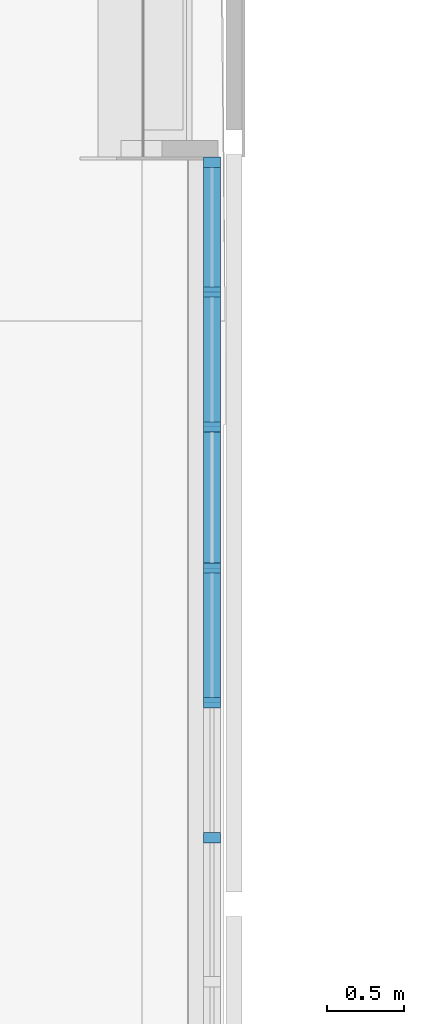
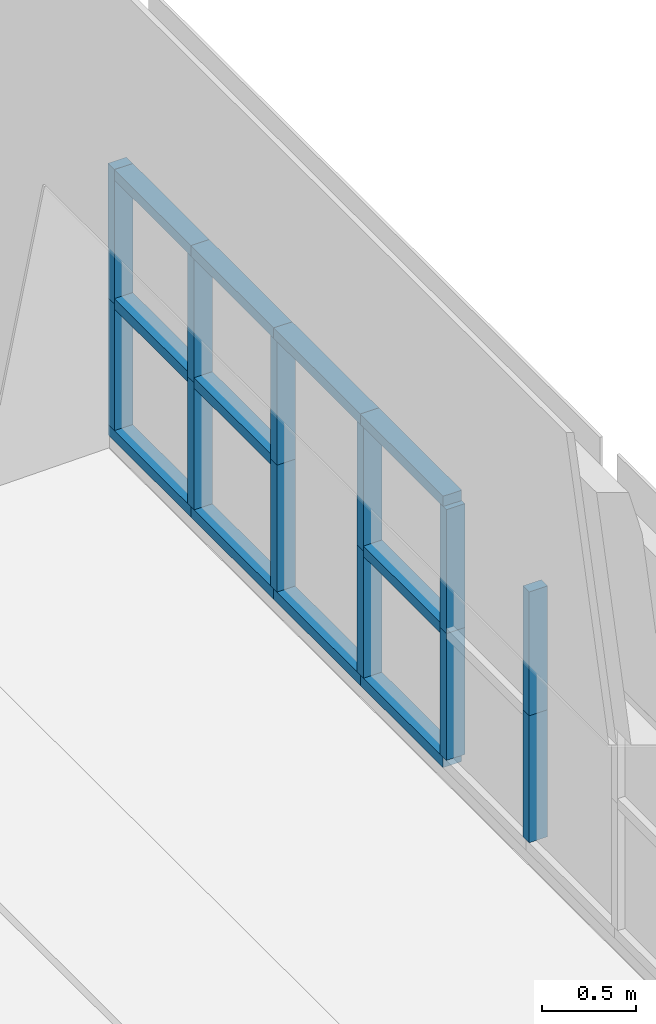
# One storey, part 8 of 66: 23 members, 1 element without a shape of its own.
"""IFC2X3 building model written with IfcOpenShell, lengths in millimetres."""

from ifc_helpers import new_model, entity, si_unit, converted_unit, derived_unit, direction, frame, origin, origin_2d_with_axis, place, context, subcontext, project, spatial, rectangle, extrude, source, transform, mapped, material, type_object, type_shapes, element, aggregate, save


model = new_model("IFC2X3")

# Units and contexts
model_context = context("Model", 3, precision=0.01, world=origin(), true_north=direction((6.12303176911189e-17, 1.0)))
body_context = subcontext(model_context, "Body", "Model", "MODEL_VIEW")
ifc_project = project(units=[si_unit("LENGTHUNIT", "METRE", prefix="MILLI"), si_unit("AREAUNIT", "SQUARE_METRE"), si_unit("VOLUMEUNIT", "CUBIC_METRE"), converted_unit("PLANEANGLEUNIT", "DEGREE", entity("IfcRatioMeasure", 0.0174532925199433), si_unit("PLANEANGLEUNIT", "RADIAN"), dimensions=[0, 0, 0, 0, 0, 0, 0]), si_unit("MASSUNIT", "GRAM", prefix="KILO"), derived_unit("MASSDENSITYUNIT", [(si_unit("MASSUNIT", "GRAM", prefix="KILO"), 1), (si_unit("LENGTHUNIT", "METRE"), -3)]), derived_unit("MOMENTOFINERTIAUNIT", [(si_unit("LENGTHUNIT", "METRE"), 4)]), si_unit("TIMEUNIT", "SECOND"), si_unit("FREQUENCYUNIT", "HERTZ"), si_unit("THERMODYNAMICTEMPERATUREUNIT", "DEGREE_CELSIUS"), derived_unit("THERMALTRANSMITTANCEUNIT", [(si_unit("MASSUNIT", "GRAM", prefix="KILO"), 1), (si_unit("THERMODYNAMICTEMPERATUREUNIT", "KELVIN"), -1), (si_unit("TIMEUNIT", "SECOND"), -3)]), derived_unit("VOLUMETRICFLOWRATEUNIT", [(si_unit("LENGTHUNIT", "METRE"), 3), (si_unit("TIMEUNIT", "SECOND"), -1)]), si_unit("ELECTRICCURRENTUNIT", "AMPERE"), si_unit("ELECTRICVOLTAGEUNIT", "VOLT"), si_unit("POWERUNIT", "WATT"), si_unit("FORCEUNIT", "NEWTON", prefix="KILO"), si_unit("ILLUMINANCEUNIT", "LUX"), si_unit("LUMINOUSFLUXUNIT", "LUMEN"), si_unit("LUMINOUSINTENSITYUNIT", "CANDELA"), derived_unit("USERDEFINED", [(si_unit("MASSUNIT", "GRAM", prefix="KILO"), -1), (si_unit("LENGTHUNIT", "METRE"), -2), (si_unit("TIMEUNIT", "SECOND"), 3), (si_unit("LUMINOUSFLUXUNIT", "LUMEN"), 1)]), derived_unit("LINEARVELOCITYUNIT", [(si_unit("LENGTHUNIT", "METRE"), 1), (si_unit("TIMEUNIT", "SECOND"), -1)]), si_unit("PRESSUREUNIT", "PASCAL"), derived_unit("USERDEFINED", [(si_unit("LENGTHUNIT", "METRE"), -2), (si_unit("MASSUNIT", "GRAM", prefix="KILO"), 1), (si_unit("TIMEUNIT", "SECOND"), -2)]), derived_unit("LINEARFORCEUNIT", [(si_unit("MASSUNIT", "GRAM", prefix="KILO"), 1), (si_unit("LENGTHUNIT", "METRE"), 1), (si_unit("TIMEUNIT", "SECOND"), -2), (si_unit("LENGTHUNIT", "METRE"), -1)]), derived_unit("PLANARFORCEUNIT", [(si_unit("MASSUNIT", "GRAM", prefix="KILO"), 1), (si_unit("LENGTHUNIT", "METRE"), 1), (si_unit("TIMEUNIT", "SECOND"), -2), (si_unit("LENGTHUNIT", "METRE"), -2)])], contexts=[model_context])

# Site, building, storey
site_placement = place(None, origin())
site = spatial("IfcSite", under=ifc_project, at=site_placement, Name="Default", CompositionType="ELEMENT")
building_placement = place(site_placement, origin())
building = spatial("IfcBuilding", under=site, at=building_placement, Name="-", CompositionType="ELEMENT")
storey_placement = place(building_placement, frame((0.0, 0.0, 3070.0)))
storey = spatial("IfcBuildingStorey", under=building, at=storey_placement, Name="01 eerste verdieping", CompositionType="ELEMENT", Elevation=3070.00000000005)

# Curtain wall, members
curtain_wall_type = type_object("IfcCurtainWallType", Name="Curtain Wall:NLRS_31_WIN_UN_houten kozijn vrij indeelbaar_gen_aly", PredefinedType="NOTDEFINED")
curtain_wall_placement = place(storey_placement, frame((0.0, 0.0, -3070.0)))
curtain_wall = element("IfcCurtainWall", 1, at=curtain_wall_placement, inside=storey, type_object=curtain_wall_type, Name="Curtain Wall:NLRS_31_WIN_UN_houten kozijn vrij indeelbaar_gen_aly", ObjectType="Curtain Wall:NLRS_31_WIN_UN_houten kozijn vrij indeelbaar_gen_aly")
ifc_material = material(Name="NLRS_i3_hout_Loofhout (hardhout) RAL 9005")
member_type_1 = type_object("IfcMemberType", Name="Rectangular Mullion:67x114 zwart", PredefinedType="MULLION", material=ifc_material)
shared_shape_1 = source(origin(), body_context, "Body", "SweptSolid", [
    extrude(rectangle(XDim=114.0, YDim=67.0, at=origin_2d_with_axis()), frame((-33.5, 0.0, -813.0), z_axis=(0.0, 0.0, 1.0), x_axis=(0.0, -1.0, 0.0)), (0.0, 0.0, 1.0), 812.999999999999),
])
type_shapes(member_type_1, [shared_shape_1])
member_1_placement = place(storey_placement, frame((28618.0, 36222.055345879, 2105.30371120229), z_axis=(0.0, 1.0, 0.0), x_axis=(0.0, 0.0, 1.0)))
member_1 = element("IfcMember", 2, at=member_1_placement, type_object=member_type_1, material=ifc_material, Name="Rectangular Mullion:67x114 zwart", ObjectType="Rectangular Mullion:67x114 zwart", context=body_context, shape_type="MappedRepresentation", body=[
    mapped(shared_shape_1, transform((0.0, 0.0, 0.0), scale=1.0)),
])
member_type_2 = type_object("IfcMemberType", Name="Rectangular Mullion:67x114 zwart", PredefinedType="MULLION", material=ifc_material)
shared_shape_2 = source(origin(), body_context, "Body", "SweptSolid", [
    extrude(rectangle(XDim=114.0, YDim=67.0, at=origin_2d_with_axis()), frame((-33.5, 0.0, -822.972353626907), z_axis=(0.0, 0.0, 1.0), x_axis=(0.0, -1.0, 0.0)), (0.0, 0.0, 1.0), 822.972353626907),
])
type_shapes(member_type_2, [shared_shape_2])
member_2_placement = place(storey_placement, frame((28618.0, 36289.055345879, 412.359003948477), z_axis=(0.0, 0.0, -1.0), x_axis=(0.0, 1.0, 0.0)))
member_2 = element("IfcMember", 3, at=member_2_placement, type_object=member_type_2, material=ifc_material, Name="Rectangular Mullion:67x114 zwart", ObjectType="Rectangular Mullion:67x114 zwart", context=body_context, shape_type="MappedRepresentation", body=[
    mapped(shared_shape_2, transform((0.0, 0.0, 0.0), scale=1.0)),
])
member_type_3 = type_object("IfcMemberType", Name="Rectangular Mullion:67x114 zwart", PredefinedType="MULLION", material=ifc_material)
shared_shape_3 = source(origin(), body_context, "Body", "SweptSolid", [
    extrude(rectangle(XDim=114.0, YDim=67.0, at=origin_2d_with_axis()), frame((-33.5, 0.0, -869.972353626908), z_axis=(0.0, 0.0, 1.0), x_axis=(0.0, -1.0, 0.0)), (0.0, 0.0, 1.0), 869.972353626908),
])
type_shapes(member_type_3, [shared_shape_3])
member_3_placement = place(storey_placement, frame((28618.0, 36289.055345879, 1235.33135757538), z_axis=(0.0, 0.0, -1.0), x_axis=(0.0, 1.0, 0.0)))
member_3 = element("IfcMember", 4, at=member_3_placement, type_object=member_type_3, material=ifc_material, Name="Rectangular Mullion:67x114 zwart", ObjectType="Rectangular Mullion:67x114 zwart", context=body_context, shape_type="MappedRepresentation", body=[
    mapped(shared_shape_3, transform((0.0, 0.0, 0.0), scale=1.0)),
])
member_type_4 = type_object("IfcMemberType", Name="Rectangular Mullion:67x114 zwart", PredefinedType="MULLION", material=ifc_material)
shared_shape_4 = source(origin(), body_context, "Body", "SweptSolid", [
    extrude(rectangle(XDim=114.0, YDim=67.0, at=origin_2d_with_axis()), frame((-33.5, 0.0, -880.0), z_axis=(0.0, 0.0, 1.0), x_axis=(0.0, -1.0, 0.0)), (0.0, 0.0, 1.0), 879.999999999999),
])
type_shapes(member_type_4, [shared_shape_4])
member_4_placement = place(storey_placement, frame((28618.0, 35409.055345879, 2105.30371120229), z_axis=(0.0, 1.0, 0.0), x_axis=(0.0, 0.0, 1.0)))
member_4 = element("IfcMember", 5, at=member_4_placement, type_object=member_type_4, material=ifc_material, Name="Rectangular Mullion:67x114 zwart", ObjectType="Rectangular Mullion:67x114 zwart", context=body_context, shape_type="MappedRepresentation", body=[
    mapped(shared_shape_4, transform((0.0, 0.0, 0.0), scale=1.0)),
])
member_5_placement = place(storey_placement, frame((28618.0, 33609.055345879, 2105.30371120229), z_axis=(0.0, 1.0, 0.0), x_axis=(0.0, 0.0, 1.0)))
member_5 = element("IfcMember", 6, at=member_5_placement, type_object=member_type_4, material=ifc_material, Name="Rectangular Mullion:67x114 zwart", ObjectType="Rectangular Mullion:67x114 zwart", context=body_context, shape_type="MappedRepresentation", body=[
    mapped(shared_shape_4, transform((0.0, 0.0, 0.0), scale=1.0)),
])
member_type_5 = type_object("IfcMemberType", Name="Rectangular Mullion:67x114 zwart", PredefinedType="MULLION", material=ifc_material)
shared_shape_5 = source(origin(), body_context, "Body", "SweptSolid", [
    extrude(rectangle(XDim=114.0, YDim=67.0, at=origin_2d_with_axis()), frame((-33.5, 0.0, -880.0), z_axis=(0.0, 0.0, 1.0), x_axis=(0.0, -1.0, 0.0)), (0.0, 0.0, 1.0), 879.999999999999),
])
type_shapes(member_type_5, [shared_shape_5])
member_6_placement = place(storey_placement, frame((28618.0, 35409.055345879, 345.359003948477), z_axis=(0.0, -1.0, 0.0), x_axis=(0.0, 0.0, -1.0)))
member_6 = element("IfcMember", 7, at=member_6_placement, type_object=member_type_5, material=ifc_material, Name="Rectangular Mullion:67x114 zwart", ObjectType="Rectangular Mullion:67x114 zwart", context=body_context, shape_type="MappedRepresentation", body=[
    mapped(shared_shape_5, transform((0.0, 0.0, 0.0), scale=1.0)),
])
member_type_6 = type_object("IfcMemberType", Name="Rectangular Mullion:67x114 zwart", PredefinedType="MULLION", material=ifc_material)
shared_shape_6 = source(origin(), body_context, "Body", "SweptSolid", [
    extrude(rectangle(XDim=114.0, YDim=67.0, at=origin_2d_with_axis()), frame((0.0, 0.0, -779.499999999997), z_axis=(0.0, 0.0, 1.0), x_axis=(0.0, -1.0, 0.0)), (0.0, 0.0, 1.0), 779.499999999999),
])
type_shapes(member_type_6, [shared_shape_6])
member_7_placement = place(storey_placement, frame((28618.0, 36222.055345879, 1235.33135757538), z_axis=(0.0, 1.0, 0.0), x_axis=(0.0, 0.0, 1.0)))
member_7 = element("IfcMember", 8, at=member_7_placement, type_object=member_type_6, material=ifc_material, Name="Rectangular Mullion:67x114 zwart", ObjectType="Rectangular Mullion:67x114 zwart", context=body_context, shape_type="MappedRepresentation", body=[
    mapped(shared_shape_6, transform((0.0, 0.0, 0.0), scale=1.0)),
])
member_type_7 = type_object("IfcMemberType", Name="Rectangular Mullion:67x114 zwart", PredefinedType="MULLION", material=ifc_material)
shared_shape_7 = source(origin(), body_context, "Body", "SweptSolid", [
    extrude(rectangle(XDim=114.0, YDim=67.0, at=origin_2d_with_axis()), frame((0.0, 0.0, -822.972353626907), z_axis=(0.0, 0.0, 1.0), x_axis=(0.0, -1.0, 0.0)), (0.0, 0.0, 1.0), 822.972353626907),
])
type_shapes(member_type_7, [shared_shape_7])
member_8_placement = place(storey_placement, frame((28618.0, 35409.055345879, 412.359003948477), z_axis=(0.0, 0.0, -1.0), x_axis=(0.0, 1.0, 0.0)))
member_8 = element("IfcMember", 9, at=member_8_placement, type_object=member_type_7, material=ifc_material, Name="Rectangular Mullion:67x114 zwart", ObjectType="Rectangular Mullion:67x114 zwart", context=body_context, shape_type="MappedRepresentation", body=[
    mapped(shared_shape_7, transform((0.0, 0.0, 0.0), scale=1.0)),
])
member_9_placement = place(storey_placement, frame((28618.0, 34529.055345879, 412.359003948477), z_axis=(0.0, 0.0, -1.0), x_axis=(0.0, 1.0, 0.0)))
member_9 = element("IfcMember", 10, at=member_9_placement, type_object=member_type_7, material=ifc_material, Name="Rectangular Mullion:67x114 zwart", ObjectType="Rectangular Mullion:67x114 zwart", context=body_context, shape_type="MappedRepresentation", body=[
    mapped(shared_shape_7, transform((0.0, 0.0, 0.0), scale=1.0)),
])
member_10_placement = place(storey_placement, frame((28618.0, 33609.055345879, 412.359003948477), z_axis=(0.0, 0.0, -1.0), x_axis=(0.0, 1.0, 0.0)))
member_10 = element("IfcMember", 11, at=member_10_placement, type_object=member_type_7, material=ifc_material, Name="Rectangular Mullion:67x114 zwart", ObjectType="Rectangular Mullion:67x114 zwart", context=body_context, shape_type="MappedRepresentation", body=[
    mapped(shared_shape_7, transform((0.0, 0.0, 0.0), scale=1.0)),
])
member_11_placement = place(storey_placement, frame((28618.0, 32729.055345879, 412.359003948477), z_axis=(0.0, 0.0, -1.0), x_axis=(0.0, 1.0, 0.0)))
member_11 = element("IfcMember", 12, at=member_11_placement, type_object=member_type_7, material=ifc_material, Name="Rectangular Mullion:67x114 zwart", ObjectType="Rectangular Mullion:67x114 zwart", context=body_context, shape_type="MappedRepresentation", body=[
    mapped(shared_shape_7, transform((0.0, 0.0, 0.0), scale=1.0)),
])
member_12_placement = place(storey_placement, frame((28618.0, 31849.055345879, 412.359003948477), z_axis=(0.0, 0.0, -1.0), x_axis=(0.0, 1.0, 0.0)))
member_12 = element("IfcMember", 13, at=member_12_placement, type_object=member_type_7, material=ifc_material, Name="Rectangular Mullion:67x114 zwart", ObjectType="Rectangular Mullion:67x114 zwart", context=body_context, shape_type="MappedRepresentation", body=[
    mapped(shared_shape_7, transform((0.0, 0.0, 0.0), scale=1.0)),
])
member_type_8 = type_object("IfcMemberType", Name="Rectangular Mullion:67x114 zwart", PredefinedType="MULLION", material=ifc_material)
shared_shape_8 = source(origin(), body_context, "Body", "SweptSolid", [
    extrude(rectangle(XDim=114.0, YDim=67.0, at=origin_2d_with_axis()), frame((0.0, 0.0, -802.972353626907), z_axis=(0.0, 0.0, 1.0), x_axis=(0.0, -1.0, 0.0)), (0.0, 0.0, 1.0), 802.972353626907),
])
type_shapes(member_type_8, [shared_shape_8])
member_13_placement = place(storey_placement, frame((28618.0, 35409.055345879, 1235.33135757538), z_axis=(0.0, 0.0, -1.0), x_axis=(0.0, 1.0, 0.0)))
member_13 = element("IfcMember", 14, at=member_13_placement, type_object=member_type_8, material=ifc_material, Name="Rectangular Mullion:67x114 zwart", ObjectType="Rectangular Mullion:67x114 zwart", context=body_context, shape_type="MappedRepresentation", body=[
    mapped(shared_shape_8, transform((0.0, 0.0, 0.0), scale=1.0)),
])
member_14_placement = place(storey_placement, frame((28618.0, 34529.055345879, 1235.33135757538), z_axis=(0.0, 0.0, -1.0), x_axis=(0.0, 1.0, 0.0)))
member_14 = element("IfcMember", 15, at=member_14_placement, type_object=member_type_8, material=ifc_material, Name="Rectangular Mullion:67x114 zwart", ObjectType="Rectangular Mullion:67x114 zwart", context=body_context, shape_type="MappedRepresentation", body=[
    mapped(shared_shape_8, transform((0.0, 0.0, 0.0), scale=1.0)),
])
member_15_placement = place(storey_placement, frame((28618.0, 33609.055345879, 1235.33135757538), z_axis=(0.0, 0.0, -1.0), x_axis=(0.0, 1.0, 0.0)))
member_15 = element("IfcMember", 16, at=member_15_placement, type_object=member_type_8, material=ifc_material, Name="Rectangular Mullion:67x114 zwart", ObjectType="Rectangular Mullion:67x114 zwart", context=body_context, shape_type="MappedRepresentation", body=[
    mapped(shared_shape_8, transform((0.0, 0.0, 0.0), scale=1.0)),
])
member_16_placement = place(storey_placement, frame((28618.0, 32729.055345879, 1235.33135757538), z_axis=(0.0, 0.0, -1.0), x_axis=(0.0, 1.0, 0.0)))
member_16 = element("IfcMember", 17, at=member_16_placement, type_object=member_type_8, material=ifc_material, Name="Rectangular Mullion:67x114 zwart", ObjectType="Rectangular Mullion:67x114 zwart", context=body_context, shape_type="MappedRepresentation", body=[
    mapped(shared_shape_8, transform((0.0, 0.0, 0.0), scale=1.0)),
])
member_17_placement = place(storey_placement, frame((28618.0, 31849.055345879, 1235.33135757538), z_axis=(0.0, 0.0, -1.0), x_axis=(0.0, 1.0, 0.0)))
member_17 = element("IfcMember", 18, at=member_17_placement, type_object=member_type_8, material=ifc_material, Name="Rectangular Mullion:67x114 zwart", ObjectType="Rectangular Mullion:67x114 zwart", context=body_context, shape_type="MappedRepresentation", body=[
    mapped(shared_shape_8, transform((0.0, 0.0, 0.0), scale=1.0)),
])
member_type_9 = type_object("IfcMemberType", Name="Rectangular Mullion:67x114 zwart", PredefinedType="MULLION", material=ifc_material)
shared_shape_9 = source(origin(), body_context, "Body", "SweptSolid", [
    extrude(rectangle(XDim=114.0, YDim=67.0, at=origin_2d_with_axis()), frame((-33.5, 0.0, -920.0), z_axis=(0.0, 0.0, 1.0), x_axis=(0.0, -1.0, 0.0)), (0.0, 0.0, 1.0), 919.999999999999),
])
type_shapes(member_type_9, [shared_shape_9])
member_18_placement = place(storey_placement, frame((28618.0, 34529.055345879, 2105.30371120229), z_axis=(0.0, 1.0, 0.0), x_axis=(0.0, 0.0, 1.0)))
member_18 = element("IfcMember", 19, at=member_18_placement, type_object=member_type_9, material=ifc_material, Name="Rectangular Mullion:67x114 zwart", ObjectType="Rectangular Mullion:67x114 zwart", context=body_context, shape_type="MappedRepresentation", body=[
    mapped(shared_shape_9, transform((0.0, 0.0, 0.0), scale=1.0)),
])
member_type_10 = type_object("IfcMemberType", Name="Rectangular Mullion:67x114 zwart", PredefinedType="MULLION", material=ifc_material)
shared_shape_10 = source(origin(), body_context, "Body", "SweptSolid", [
    extrude(rectangle(XDim=114.0, YDim=67.0, at=origin_2d_with_axis()), frame((-33.5, 0.0, -880.0), z_axis=(0.0, 0.0, 1.0), x_axis=(0.0, -1.0, 0.0)), (0.0, 0.0, 1.0), 879.999999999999),
])
type_shapes(member_type_10, [shared_shape_10])
member_19_placement = place(storey_placement, frame((28618.0, 34529.055345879, 345.359003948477), z_axis=(0.0, -1.0, 0.0), x_axis=(0.0, 0.0, -1.0)))
member_19 = element("IfcMember", 20, at=member_19_placement, type_object=member_type_10, material=ifc_material, Name="Rectangular Mullion:67x114 zwart", ObjectType="Rectangular Mullion:67x114 zwart", context=body_context, shape_type="MappedRepresentation", body=[
    mapped(shared_shape_10, transform((0.0, 0.0, 0.0), scale=1.0)),
])
member_20_placement = place(storey_placement, frame((28618.0, 32729.055345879, 345.359003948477), z_axis=(0.0, -1.0, 0.0), x_axis=(0.0, 0.0, -1.0)))
member_20 = element("IfcMember", 21, at=member_20_placement, type_object=member_type_10, material=ifc_material, Name="Rectangular Mullion:67x114 zwart", ObjectType="Rectangular Mullion:67x114 zwart", context=body_context, shape_type="MappedRepresentation", body=[
    mapped(shared_shape_10, transform((0.0, 0.0, 0.0), scale=1.0)),
])
member_type_11 = type_object("IfcMemberType", Name="Rectangular Mullion:67x114 zwart", PredefinedType="MULLION", material=ifc_material)
shared_shape_11 = source(origin(), body_context, "Body", "SweptSolid", [
    extrude(rectangle(XDim=114.0, YDim=67.0, at=origin_2d_with_axis()), frame((0.0, 0.0, -813.0), z_axis=(0.0, 0.0, 1.0), x_axis=(0.0, -1.0, 0.0)), (0.0, 0.0, 1.0), 812.999999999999),
])
type_shapes(member_type_11, [shared_shape_11])
member_21_placement = place(storey_placement, frame((28618.0, 35375.555345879, 1235.33135757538), z_axis=(0.0, 1.0, 0.0), x_axis=(0.0, 0.0, 1.0)))
member_21 = element("IfcMember", 22, at=member_21_placement, type_object=member_type_11, material=ifc_material, Name="Rectangular Mullion:67x114 zwart", ObjectType="Rectangular Mullion:67x114 zwart", context=body_context, shape_type="MappedRepresentation", body=[
    mapped(shared_shape_11, transform((0.0, 0.0, 0.0), scale=1.0)),
])
member_22_placement = place(storey_placement, frame((28618.0, 33575.555345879, 1235.33135757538), z_axis=(0.0, 1.0, 0.0), x_axis=(0.0, 0.0, 1.0)))
member_22 = element("IfcMember", 23, at=member_22_placement, type_object=member_type_11, material=ifc_material, Name="Rectangular Mullion:67x114 zwart", ObjectType="Rectangular Mullion:67x114 zwart", context=body_context, shape_type="MappedRepresentation", body=[
    mapped(shared_shape_11, transform((0.0, 0.0, 0.0), scale=1.0)),
])
member_type_12 = type_object("IfcMemberType", Name="Rectangular Mullion:67x114 zwart", PredefinedType="MULLION", material=ifc_material)
shared_shape_12 = source(origin(), body_context, "Body", "SweptSolid", [
    extrude(rectangle(XDim=114.0, YDim=67.0, at=origin_2d_with_axis()), frame((-33.5, 0.0, -920.0), z_axis=(0.0, 0.0, 1.0), x_axis=(0.0, -1.0, 0.0)), (0.0, 0.0, 1.0), 919.999999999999),
])
type_shapes(member_type_12, [shared_shape_12])
member_23_placement = place(storey_placement, frame((28618.0, 33609.055345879, 345.359003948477), z_axis=(0.0, -1.0, 0.0), x_axis=(0.0, 0.0, -1.0)))
member_23 = element("IfcMember", 24, at=member_23_placement, type_object=member_type_12, material=ifc_material, Name="Rectangular Mullion:67x114 zwart", ObjectType="Rectangular Mullion:67x114 zwart", context=body_context, shape_type="MappedRepresentation", body=[
    mapped(shared_shape_12, transform((0.0, 0.0, 0.0), scale=1.0)),
])
aggregate(curtain_wall, [member_1, member_2, member_3, member_4, member_6, member_7, member_8, member_13, member_18, member_19, member_21, member_9, member_14, member_5, member_23, member_10, member_15, member_20, member_22, member_11, member_16, member_12, member_17])

save(model, "model.ifc")
